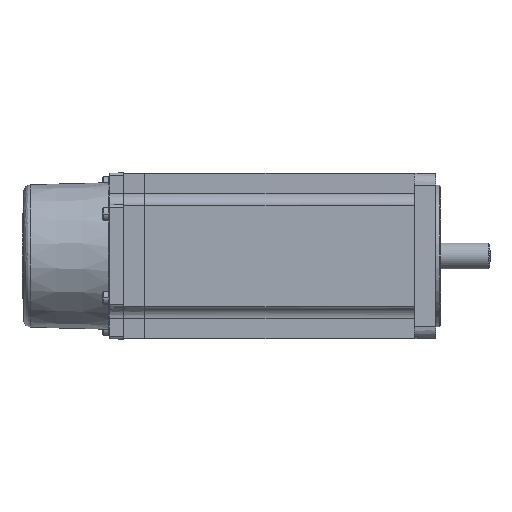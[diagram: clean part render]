
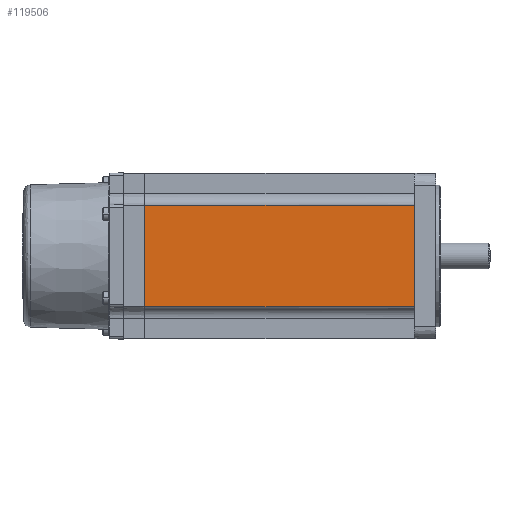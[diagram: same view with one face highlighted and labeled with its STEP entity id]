
A CAD part, front view. The second image highlights one B-rep face of the part: STEP entity #119506.
In plain terms, the highlighted planar face has unit normal (0, -1, 0) as drawn and (0, 1, 0) by its records, which use the part's own axes.
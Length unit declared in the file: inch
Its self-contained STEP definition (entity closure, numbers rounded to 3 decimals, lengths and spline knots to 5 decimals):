
#5494 = EDGE_CURVE ( 'NONE', #142040, #160645, #108567, .T. ) ;
#5642 = VERTEX_POINT ( 'NONE', #24780 ) ;
#7828 = CARTESIAN_POINT ( 'NONE',  ( -0.84711, 1.37795, 4.6063 ) ) ;
#18698 = VECTOR ( 'NONE', #134962, 39.37008 ) ;
#24780 = CARTESIAN_POINT ( 'NONE',  ( 0.84711, 1.37795, -1.25984 ) ) ;
#28826 = LINE ( 'NONE', #140324, #97332 ) ;
#43911 = CARTESIAN_POINT ( 'NONE',  ( -1.37795, 1.37795, 3.22835 ) ) ;
#44084 = AXIS2_PLACEMENT_3D ( 'NONE', #43911, #56904, #147197 ) ;
#50167 = FACE_OUTER_BOUND ( 'NONE', #54232, .T. ) ;
#52907 = LINE ( 'NONE', #70060, #18698 ) ;
#54232 = EDGE_LOOP ( 'NONE', ( #159912, #135233, #55237, #130119 ) ) ;
#55237 = ORIENTED_EDGE ( 'NONE', *, *, #5494, .F. ) ;
#56260 = CARTESIAN_POINT ( 'NONE',  ( -0.84711, 1.37795, 3.22835 ) ) ;
#56904 = DIRECTION ( 'NONE',  ( 0., 1., 0. ) ) ;
#70060 = CARTESIAN_POINT ( 'NONE',  ( 0.84711, 1.37795, -1.25984 ) ) ;
#80232 = CARTESIAN_POINT ( 'NONE',  ( -1.37795, 1.37795, 3.22835 ) ) ;
#89224 = LINE ( 'NONE', #80232, #123477 ) ;
#90993 = EDGE_CURVE ( 'NONE', #142040, #136542, #89224, .T. ) ;
#92653 = DIRECTION ( 'NONE',  ( 1., 0., 0. ) ) ;
#96987 = CARTESIAN_POINT ( 'NONE',  ( -0.84711, 1.37795, -1.25984 ) ) ;
#97332 = VECTOR ( 'NONE', #153307, 39.37008 ) ;
#104396 = CARTESIAN_POINT ( 'NONE',  ( 0.84711, 1.37795, 3.22835 ) ) ;
#108567 = LINE ( 'NONE', #7828, #159100 ) ;
#112838 = EDGE_CURVE ( 'NONE', #5642, #136542, #52907, .T. ) ;
#119506 = ADVANCED_FACE ( 'NONE', ( #50167 ), #121149, .T. ) ;
#121149 = PLANE ( 'NONE',  #44084 ) ;
#123477 = VECTOR ( 'NONE', #92653, 39.37008 ) ;
#127233 = EDGE_CURVE ( 'NONE', #160645, #5642, #28826, .T. ) ;
#130119 = ORIENTED_EDGE ( 'NONE', *, *, #90993, .T. ) ;
#134962 = DIRECTION ( 'NONE',  ( 0., 0., 1. ) ) ;
#135233 = ORIENTED_EDGE ( 'NONE', *, *, #127233, .F. ) ;
#135873 = DIRECTION ( 'NONE',  ( 0., 0., -1. ) ) ;
#136542 = VERTEX_POINT ( 'NONE', #104396 ) ;
#140324 = CARTESIAN_POINT ( 'NONE',  ( -1.37795, 1.37795, -1.25984 ) ) ;
#142040 = VERTEX_POINT ( 'NONE', #56260 ) ;
#147197 = DIRECTION ( 'NONE',  ( 0., 0., 1. ) ) ;
#153307 = DIRECTION ( 'NONE',  ( 1., 0., 0. ) ) ;
#159100 = VECTOR ( 'NONE', #135873, 39.37008 ) ;
#159912 = ORIENTED_EDGE ( 'NONE', *, *, #112838, .F. ) ;
#160645 = VERTEX_POINT ( 'NONE', #96987 ) ;
